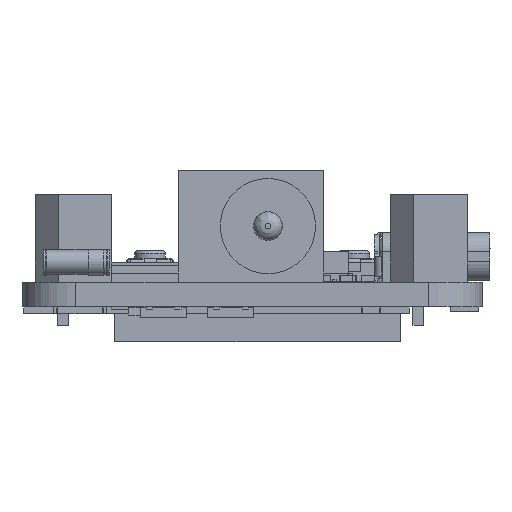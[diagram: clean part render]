
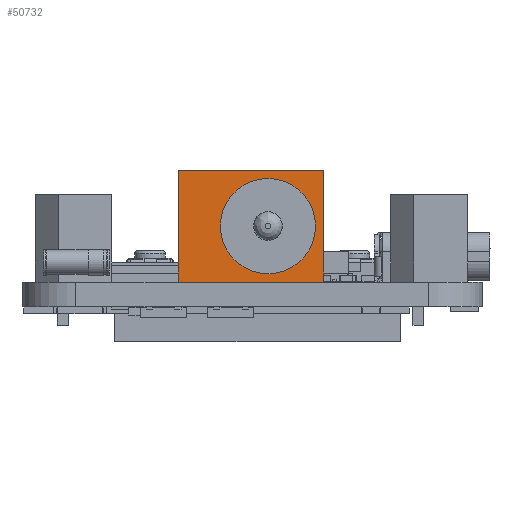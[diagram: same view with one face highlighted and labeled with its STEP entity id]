
A CAD part, left-side view. The second image highlights one B-rep face of the part: STEP entity #50732.
In plain terms, the highlighted planar face has unit normal (-1, 0, 0).
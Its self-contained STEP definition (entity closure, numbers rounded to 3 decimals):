
#3461=FACE_BOUND('',#7970,.T.);
#3681=CIRCLE('',#54644,3.1);
#5272=FACE_OUTER_BOUND('',#7969,.T.);
#7969=EDGE_LOOP('',(#36219,#36220,#36221,#36222));
#7970=EDGE_LOOP('',(#36223));
#11223=LINE('',#77185,#17012);
#11224=LINE('',#77187,#17013);
#11225=LINE('',#77189,#17014);
#11226=LINE('',#77190,#17015);
#17012=VECTOR('',#61536,1.);
#17013=VECTOR('',#61537,1.);
#17014=VECTOR('',#61538,1.);
#17015=VECTOR('',#61539,1.);
#22561=VERTEX_POINT('',#77176);
#22563=VERTEX_POINT('',#77183);
#22564=VERTEX_POINT('',#77184);
#22565=VERTEX_POINT('',#77186);
#22566=VERTEX_POINT('',#77188);
#27739=EDGE_CURVE('',#22561,#22561,#3681,.T.);
#27742=EDGE_CURVE('',#22563,#22564,#11223,.T.);
#27743=EDGE_CURVE('',#22563,#22565,#11224,.T.);
#27744=EDGE_CURVE('',#22565,#22566,#11225,.T.);
#27745=EDGE_CURVE('',#22564,#22566,#11226,.T.);
#36219=ORIENTED_EDGE('',*,*,#27742,.F.);
#36220=ORIENTED_EDGE('',*,*,#27743,.T.);
#36221=ORIENTED_EDGE('',*,*,#27744,.T.);
#36222=ORIENTED_EDGE('',*,*,#27745,.F.);
#36223=ORIENTED_EDGE('',*,*,#27739,.T.);
#48672=PLANE('',#54647);
#50732=ADVANCED_FACE('',(#5272,#3461),#48672,.F.);
#54644=AXIS2_PLACEMENT_3D('',#77177,#61527,#61528);
#54647=AXIS2_PLACEMENT_3D('',#77182,#61534,#61535);
#61527=DIRECTION('center_axis',(1.,0.,0.));
#61528=DIRECTION('ref_axis',(0.,-1.,0.));
#61534=DIRECTION('center_axis',(1.,0.,0.));
#61535=DIRECTION('ref_axis',(0.,-1.,0.));
#61536=DIRECTION('',(0.,0.,1.));
#61537=DIRECTION('',(0.,-1.,0.));
#61538=DIRECTION('',(0.,0.,1.));
#61539=DIRECTION('',(0.,-1.,0.));
#77176=CARTESIAN_POINT('',(-5.766,2.003,3.65));
#77177=CARTESIAN_POINT('Origin',(-5.766,-1.097,3.65));
#77182=CARTESIAN_POINT('Origin',(-5.766,4.737,0.));
#77183=CARTESIAN_POINT('',(-5.766,4.737,0.));
#77184=CARTESIAN_POINT('',(-5.766,4.737,7.3));
#77185=CARTESIAN_POINT('',(-5.766,4.737,0.));
#77186=CARTESIAN_POINT('',(-5.766,-4.737,0.));
#77187=CARTESIAN_POINT('',(-5.766,4.737,0.));
#77188=CARTESIAN_POINT('',(-5.766,-4.737,7.3));
#77189=CARTESIAN_POINT('',(-5.766,-4.737,0.));
#77190=CARTESIAN_POINT('',(-5.766,4.737,7.3));
